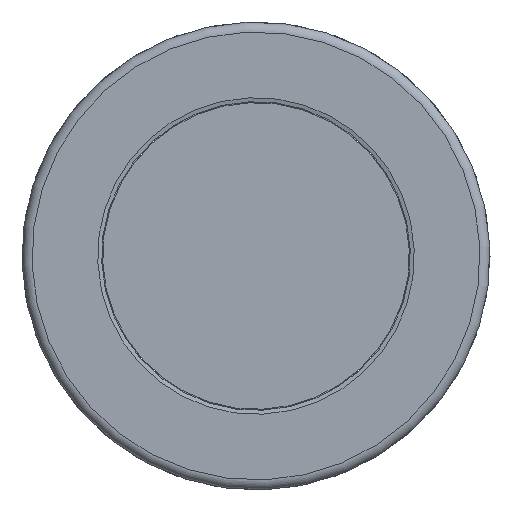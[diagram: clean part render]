
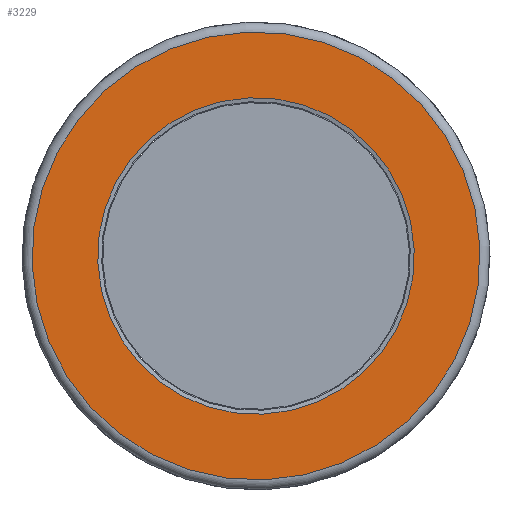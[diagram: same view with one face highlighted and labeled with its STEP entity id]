
A CAD part, front view. The second image highlights one B-rep face of the part: STEP entity #3229.
In plain terms, the highlighted planar face has unit normal (0, -1, 0).
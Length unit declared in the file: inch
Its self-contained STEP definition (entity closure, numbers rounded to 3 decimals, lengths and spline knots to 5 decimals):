
#86 = AXIS2_PLACEMENT_3D ( 'NONE', #1298, #1301, #1306 ) ;
#273 = DIRECTION ( 'NONE',  ( -0.924, 0., -0.382 ) ) ;
#535 = DIRECTION ( 'NONE',  ( 0., 1., 0. ) ) ;
#575 = CIRCLE ( 'NONE', #893, 0.88583 ) ;
#674 = FACE_BOUND ( 'NONE', #867, .T. ) ;
#711 = FACE_OUTER_BOUND ( 'NONE', #762, .T. ) ;
#762 = EDGE_LOOP ( 'NONE', ( #1743 ) ) ;
#851 = ORIENTED_EDGE ( 'NONE', *, *, #935, .T. ) ;
#867 = EDGE_LOOP ( 'NONE', ( #851 ) ) ;
#893 = AXIS2_PLACEMENT_3D ( 'NONE', #2006, #1271, #273 ) ;
#935 = EDGE_CURVE ( 'NONE', #1912, #1912, #3428, .T. ) ;
#1271 = DIRECTION ( 'NONE',  ( 0., -1., 0. ) ) ;
#1298 = CARTESIAN_POINT ( 'NONE',  ( 0., -5.6122, 0. ) ) ;
#1301 = DIRECTION ( 'NONE',  ( 0., 1., 0. ) ) ;
#1303 = CARTESIAN_POINT ( 'NONE',  ( 0.23302, -5.6122, -0.564 ) ) ;
#1306 = DIRECTION ( 'NONE',  ( 0.924, 0., 0.382 ) ) ;
#1716 = CARTESIAN_POINT ( 'NONE',  ( -0.8187, -5.6122, -0.33825 ) ) ;
#1741 = EDGE_CURVE ( 'NONE', #2850, #2850, #575, .T. ) ;
#1743 = ORIENTED_EDGE ( 'NONE', *, *, #1741, .T. ) ;
#1912 = VERTEX_POINT ( 'NONE', #2329 ) ;
#2006 = CARTESIAN_POINT ( 'NONE',  ( 0., -5.6122, 0. ) ) ;
#2329 = CARTESIAN_POINT ( 'NONE',  ( 0.57855, -5.6122, 0.23903 ) ) ;
#2458 = DIRECTION ( 'NONE',  ( 0.924, 0., 0.382 ) ) ;
#2850 = VERTEX_POINT ( 'NONE', #1716 ) ;
#3229 = ADVANCED_FACE ( 'NONE', ( #674, #711 ), #3346, .F. ) ;
#3346 = PLANE ( 'NONE',  #3584 ) ;
#3428 = CIRCLE ( 'NONE', #86, 0.62598 ) ;
#3584 = AXIS2_PLACEMENT_3D ( 'NONE', #1303, #535, #2458 ) ;
